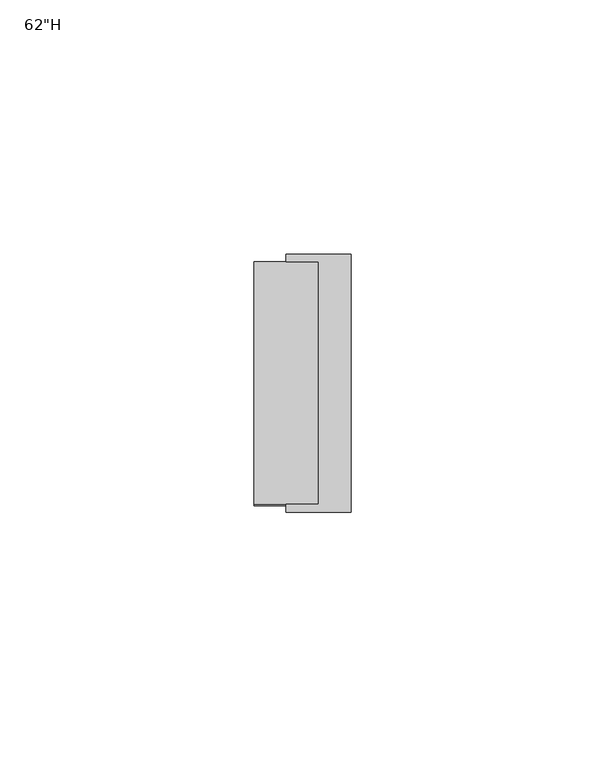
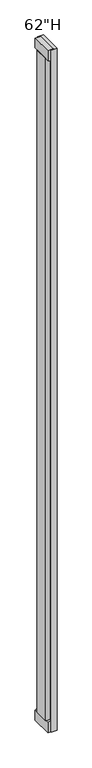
"""IFC4 building model written with IfcOpenShell, lengths in millimetres: furniture geometry."""

from ifc_helpers import new_model, si_unit, frame, origin, place, context, project, spatial, polyline, outline, extrude, source, transform, mapped, element, save


def furniture_2208834e(model_context):
    return source(origin(), model_context, "Body", "SweptSolid", [
        extrude(outline(polyline([(24.0633259, -1522.2754942), (24.0633259, -1490.5254936), (32.0008265, -1485.7629932), (36.7633267, -1485.7629932), (36.7633267, -1527.0379947), (32.0008265, -1527.0379947), (24.0633259, -1522.2754942)])), frame((0.0, 0.0, 149.2250003), z_axis=(0.0, 0.0, 1.0), x_axis=(1.0, 0.0, 0.0)), (0.0, 0.0, 1.0), 1517.6499755),
        extrude(outline(polyline([(153.9874985, 36.7633267), (153.9874985, 32.0008265), (149.2250003, 24.0633259), (127.0, 24.0633259), (127.0, 36.7633267), (153.9874985, 36.7633267)])), frame((0.0, -1530.2129947, 0.0), z_axis=(0.0, 1.0, 0.0), x_axis=(0.0, 0.0, 1.0)), (0.0, 0.0, 1.0), 47.7268886),
        extrude(outline(polyline([(30.4133263, -1481.0004947), (43.1133267, -1481.0004947), (43.1133267, -1531.8004947), (30.4133263, -1531.8004947), (30.4133263, -1530.2129947), (36.7633267, -1530.2129947), (36.7633267, -1482.4861061), (30.4133263, -1482.4861061), (30.4133263, -1481.0004947)])), frame((0.0, 0.0, 127.0), z_axis=(0.0, 0.0, 1.0), x_axis=(1.0, 0.0, 0.0)), (0.0, 0.0, 1.0), 1562.1),
        extrude(outline(polyline([(1689.1, 36.7633267), (1689.1, 24.0633259), (1666.8749758, 24.0633259), (1662.1124758, 32.0008265), (1662.1124758, 36.7633267), (1689.1, 36.7633267)])), frame((0.0, -1530.2129947, 0.0), z_axis=(0.0, 1.0, 0.0), x_axis=(0.0, 0.0, 1.0)), (0.0, 0.0, 1.0), 47.7268886),
    ])


if __name__ == "__main__":
    model = new_model("IFC4")
    model_context = context("Model", 3, world=origin())
    ifc_project = project(units=[si_unit("LENGTHUNIT", "METRE", prefix="MILLI")], contexts=[model_context])
    site = spatial("IfcSite", under=ifc_project)
    building = spatial("IfcBuilding", under=site)
    placement = place(None, origin())
    furniture_shape = furniture_2208834e(model_context)
    element("IfcFurniture", 1, ObjectType="HermanMiller_ActionOffice_AO210_WallStart : 62\"H", at=placement, inside=building, context=model_context, shape_type="MappedRepresentation", body=[
        mapped(furniture_shape, transform((0.0, 0.0, 0.0), x_axis=(1.0, 0.0, 0.0), y_axis=(0.0, 1.0, 0.0), z_axis=(0.0, 0.0, 1.0))),
    ])
    save(model, "model.ifc")
